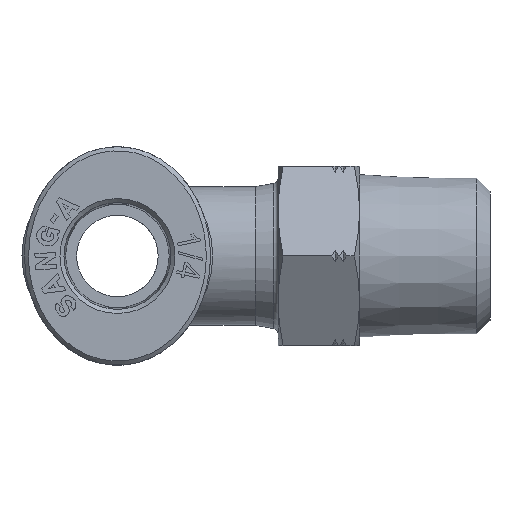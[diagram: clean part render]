
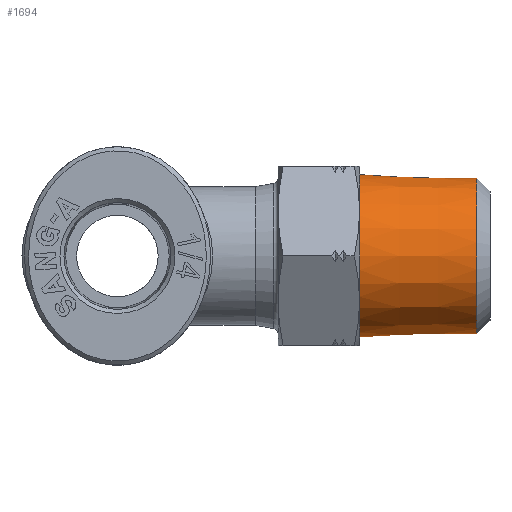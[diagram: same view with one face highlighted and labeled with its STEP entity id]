
A CAD part, left-side view. The second image highlights one B-rep face of the part: STEP entity #1694.
In plain terms, the highlighted conical face has half-angle 1.79 degrees and reference radius 4.865 mm.
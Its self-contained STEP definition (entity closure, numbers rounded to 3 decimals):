
#1632=CARTESIAN_POINT('',(4.765,0.8,0.));
#1633=VERTEX_POINT('',#1632);
#1634=CARTESIAN_POINT('',(0.0,0.8,0.));
#1635=DIRECTION('',(0.0,-1.0,0.0));
#1636=DIRECTION('',(-1.0,0.0,0.0));
#1637=AXIS2_PLACEMENT_3D('',#1634,#1635,#1636);
#1638=CIRCLE('',#1637,4.765);
#1639=EDGE_CURVE('',#1633,#1633,#1638,.T.);
#1675=CARTESIAN_POINT('',(0.,4.0,0.0));
#1676=DIRECTION('',(0.,1.0,0.0));
#1677=DIRECTION('',(1.0,0.0,0.0));
#1678=AXIS2_PLACEMENT_3D('',#1675,#1676,#1677);
#1679=CONICAL_SURFACE('',#1678,4.865,1.79);
#1680=CARTESIAN_POINT('',(4.99,8.0,0.0));
#1681=VERTEX_POINT('',#1680);
#1682=CARTESIAN_POINT('',(0.,8.,0.0));
#1683=DIRECTION('',(0.0,-1.0,0.0));
#1684=DIRECTION('',(1.0,0.0,0.0));
#1685=AXIS2_PLACEMENT_3D('',#1682,#1683,#1684);
#1686=CIRCLE('',#1685,4.99);
#1687=EDGE_CURVE('',#1681,#1681,#1686,.T.);
#1688=ORIENTED_EDGE('',*,*,#1687,.T.);
#1689=EDGE_LOOP('',(#1688));
#1690=FACE_OUTER_BOUND('',#1689,.T.);
#1691=ORIENTED_EDGE('',*,*,#1639,.F.);
#1692=EDGE_LOOP('',(#1691));
#1693=FACE_BOUND('',#1692,.T.);
#1694=ADVANCED_FACE('',(#1690,#1693),#1679,.T.);
